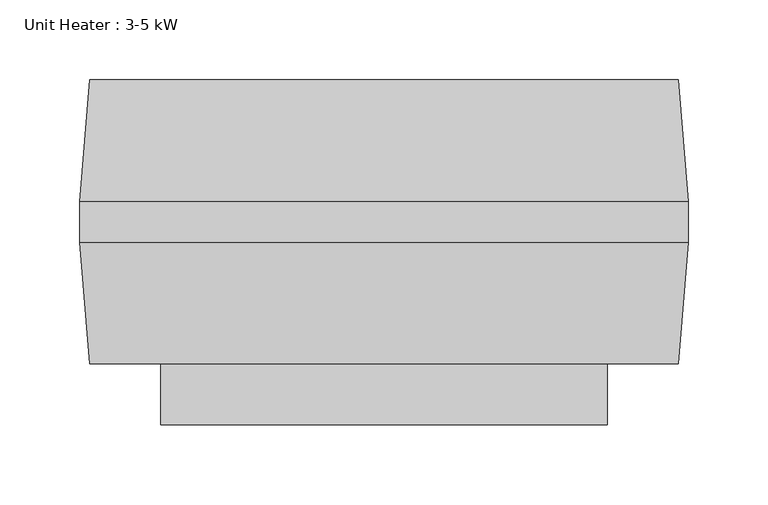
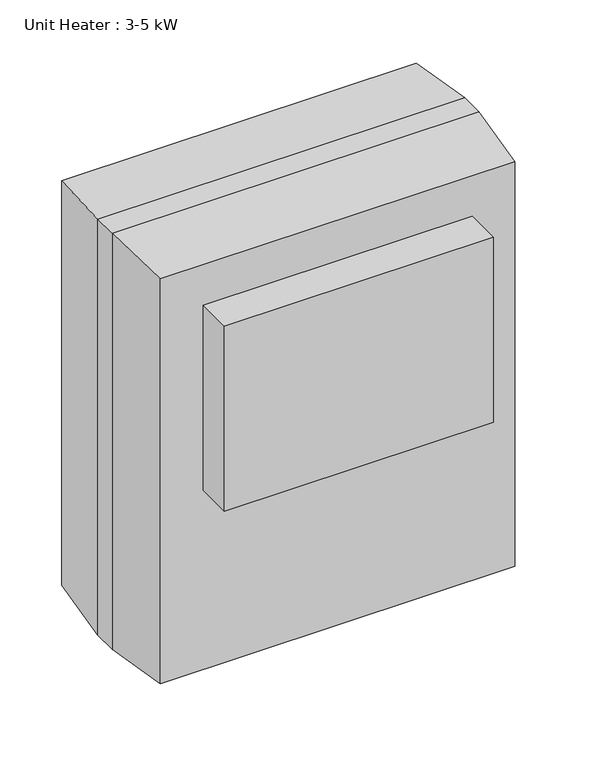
"""IFC4 building model written with IfcOpenShell, lengths in millimetres: proxy geometry, Unit Heater : 3-5 kW."""

from ifc_helpers import new_model, si_unit, frame, origin, place, context, project, spatial, polyline, outline, extrude, faceted_brep, source, transform, mapped, element, save


def unit_heater_3_5_kw_6c2374b6(model_context):
    return source(origin(), model_context, "Body", "SolidModel", [
        extrude(outline(polyline([(330.2, -38.1), (50.8, -38.1), (50.8, 0.0), (330.2, 0.0), (330.2, -38.1)])), frame((0.0, 0.0, 203.2), z_axis=(0.0, 0.0, 1.0), x_axis=(1.0, 0.0, 0.0)), (0.0, 0.0, 1.0), 203.2),
        faceted_brep([(0.0, 101.6, 457.2), (0.0, 76.2, 457.2), (381.0, 76.2, 457.2), (381.0, 101.6, 457.2), (381.0, 101.6, 0.0), (381.0, 76.2, 0.0), (0.0, 76.2, 0.0), (0.0, 101.6, 0.0), (374.65, 177.8, 450.85), (374.65, 177.8, 6.35), (6.35, 177.8, 6.35), (6.35, 177.8, 450.85), (6.35, 0.0, 450.85), (6.35, 0.0, 6.35), (374.65, 0.0, 6.35), (374.65, 0.0, 450.85)], [[[0, 1, 2, 3]], [[4, 5, 6, 7]], [[8, 9, 10, 11]], [[1, 0, 7, 6]], [[12, 13, 14, 15]], [[3, 2, 5, 4]], [[7, 0, 11, 10]], [[1, 6, 13, 12]], [[5, 2, 15, 14]], [[3, 4, 9, 8]], [[0, 3, 8, 11]], [[2, 1, 12, 15]], [[4, 7, 10, 9]], [[6, 5, 14, 13]]]),
    ])


if __name__ == "__main__":
    model = new_model("IFC4")
    model_context = context("Model", 3, world=origin())
    ifc_project = project(units=[si_unit("LENGTHUNIT", "METRE", prefix="MILLI")], contexts=[model_context])
    site = spatial("IfcSite", under=ifc_project)
    building = spatial("IfcBuilding", under=site)
    placement = place(None, origin())
    unit_heater_3_5_kw_shape = unit_heater_3_5_kw_6c2374b6(model_context)
    element("IfcBuildingElementProxy", 1, Name="Unit Heater : 3-5 kW", ObjectType="Unit Heater : 3-5 kW", at=placement, inside=building, context=model_context, shape_type="MappedRepresentation", body=[
        mapped(unit_heater_3_5_kw_shape, transform((0.0, 0.0, 0.0), x_axis=(1.0, 0.0, 0.0), y_axis=(0.0, 1.0, 0.0), z_axis=(0.0, 0.0, 1.0))),
    ])
    save(model, "model.ifc")
